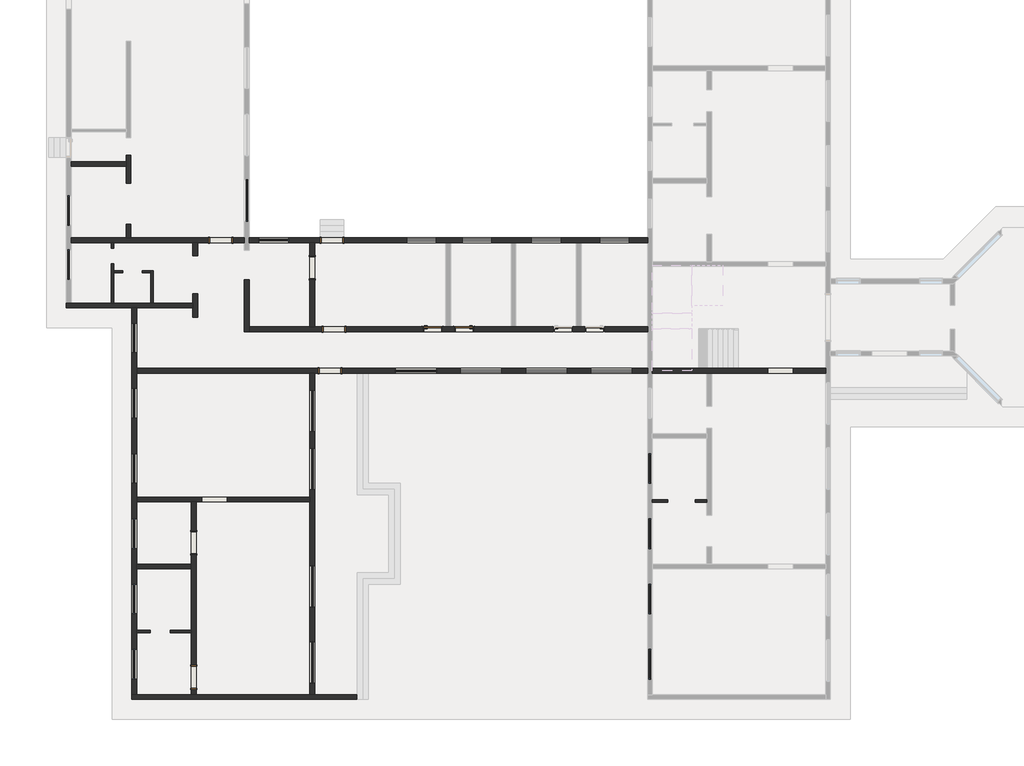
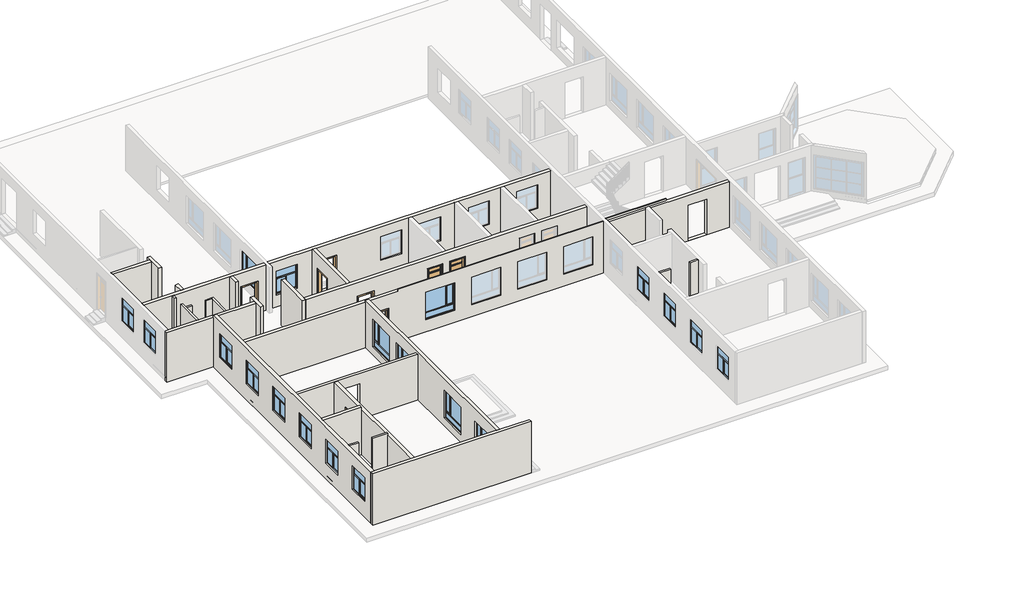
# One storey, part 1 of 5: 26 walls, 19 windows, 9 doors.
"""IFC4 building model written with IfcOpenShell, lengths in millimetres."""

from ifc_helpers import new_model, si_unit, frame, origin, origin_with_axes, place, context, project, spatial, polyline, outline, extrude, faceted_brep, transform, mapped, element, save
from components import door_b620a7e4, m1_645588ba, m1_8023598c, c1_07d47191, c2_05897f81

model = new_model("IFC4")

# Units and contexts
model_context = context("Model", 3, world=origin())
ifc_project = project(units=[si_unit("LENGTHUNIT", "METRE", prefix="MILLI")], contexts=[model_context])

# Site, building, storey
site = spatial("IfcSite", under=ifc_project)
building = spatial("IfcBuilding", under=site)
storey = spatial("IfcBuildingStorey", under=building, Name="一层", Elevation=0.0)

# Doors
placement = place(None, origin())
door_shape = door_b620a7e4(model_context)
element("IfcDoor", 1, ObjectType="门洞 : MD2(洞口）", at=placement, inside=storey, context=model_context, shape_type="MappedRepresentation", body=[
    mapped(door_shape, transform((-24575.2831392, -4613.7838385, 0.0), x_axis=(1.0, 0.0, 0.0), y_axis=(0.0, 1.0, 0.0), z_axis=(0.0, 0.0, 1.0))),
])
element("IfcDoor", 2, ObjectType="门洞 : MD2(洞口）", at=placement, inside=storey, context=model_context, shape_type="MappedRepresentation", body=[
    mapped(door_shape, transform((-19950.2831392, -6013.7838385, 0.0), x_axis=(0.0, 1.0, 0.0), y_axis=(-1.0, 0.0, 0.0), z_axis=(0.0, 0.0, 1.0))),
])
element("IfcDoor", 3, ObjectType="门洞 : MD2(洞口）", at=placement, inside=storey, context=model_context, shape_type="MappedRepresentation", body=[
    mapped(door_shape, transform((-19050.2831392, -11213.7838385, 0.0), x_axis=(1.0, 0.0, 0.0), y_axis=(0.0, 1.0, 0.0), z_axis=(0.0, 0.0, 1.0))),
])
element("IfcDoor", 4, ObjectType="门洞 : MD2(洞口）", at=placement, inside=storey, context=model_context, shape_type="MappedRepresentation", body=[
    mapped(door_shape, transform((-18850.2831392, -9113.7838385, 0.0), x_axis=(-1.0, 0.0, 0.0), y_axis=(0.0, -1.0, 0.0), z_axis=(0.0, 0.0, 1.0))),
])
element("IfcDoor", 5, ObjectType="门洞 : MD2(洞口）", at=placement, inside=storey, context=model_context, shape_type="MappedRepresentation", body=[
    mapped(door_shape, transform((-18950.2831392, -4613.7838385, 0.0), x_axis=(-1.0, 0.0, 0.0), y_axis=(0.0, -1.0, 0.0), z_axis=(0.0, 0.0, 1.0))),
])
element("IfcDoor", 6, ObjectType="门洞 : MD2(洞口）", at=placement, inside=storey, context=model_context, shape_type="MappedRepresentation", body=[
    mapped(door_shape, transform((-25950.2831392, -19913.7838385, 0.0), x_axis=(0.0, 1.0, 0.0), y_axis=(-1.0, 0.0, 0.0), z_axis=(0.0, 0.0, 1.0))),
])
element("IfcDoor", 7, ObjectType="门洞 : MD2(洞口）", at=placement, inside=storey, context=model_context, shape_type="MappedRepresentation", body=[
    mapped(door_shape, transform((-25950.2831392, -26713.7838385, 0.0), x_axis=(0.0, 1.0, 0.0), y_axis=(-1.0, 0.0, 0.0), z_axis=(0.0, 0.0, 1.0))),
])
m1_shape = m1_645588ba(model_context)
element("IfcDoor", 8, ObjectType="单嵌板木门 13 : M1", at=placement, inside=storey, context=model_context, shape_type="MappedRepresentation", body=[
    mapped(m1_shape, transform((-13870.2831392, -9113.7838385, 0.0), x_axis=(1.0, 0.0, 0.0), y_axis=(0.0, 1.0, 0.0), z_axis=(0.0, 0.0, 1.0))),
])
m1_2_shape = m1_8023598c(model_context)
element("IfcDoor", 9, ObjectType="单嵌板木门 13 : M1", at=placement, inside=storey, context=model_context, shape_type="MappedRepresentation", body=[
    mapped(m1_2_shape, transform((-12270.2831392, -9113.7838385, 0.0), x_axis=(-1.0, 0.0, 0.0), y_axis=(0.0, -1.0, 0.0), z_axis=(0.0, 0.0, 1.0))),
])

# Walls
element("IfcWall", 10, ObjectType="墙", at=placement, inside=storey, context=model_context, shape_type="Brep", body=[
    faceted_brep([(-29070.2831392, -27833.7838385, -300.0), (-17710.2831392, -27833.7838385, -300.0), (-17710.2831392, -27833.7838385, 3600.0), (-29070.2831392, -27833.7838385, 3600.0), (-29070.2831392, -27593.7838385, -300.0), (-29070.2831392, -27593.7838385, 3600.0), (-28830.2831392, -27593.7838385, 3600.0), (-20070.2831392, -27593.7838385, 3600.0), (-19830.2831392, -27593.7838385, 3600.0), (-17710.2831392, -27593.7838385, 3600.0), (-17710.2831392, -27593.7838385, 3450.0), (-17710.2831392, -27593.7838385, -300.0), (-19830.2831392, -27593.7838385, -300.0), (-20070.2831392, -27593.7838385, -300.0), (-25830.2831392, -27593.7838385, -300.0), (-26070.2831392, -27593.7838385, -300.0), (-28830.2831392, -27593.7838385, -300.0)], [[[0, 1, 2, 3]], [[4, 5, 6, 7, 8, 9, 10, 11, 12, 13, 14, 15, 16]], [[1, 0, 4, 16, 15, 14, 13, 12, 11]], [[3, 2, 9, 8, 7, 6, 5]], [[0, 3, 5, 4]], [[2, 1, 11, 10, 9]]]),
])
element("IfcWall", 11, ObjectType="墙", at=placement, inside=storey, context=model_context, shape_type="Brep", body=[
    faceted_brep([(-28830.2831392, -27593.7838385, -300.0), (-28830.2831392, -21233.7838385, -300.0), (-28830.2831392, -20993.7838385, -300.0), (-28830.2831392, -17850.7838385, -300.0), (-28830.2831392, -17610.7838385, -300.0), (-28830.2831392, -11333.7838385, -300.0), (-28830.2831392, -11093.7838385, -300.0), (-28830.2831392, -8033.7838385, -300.0), (-28830.2831392, -8033.7838385, 3600.0), (-28830.2831392, -20993.7838385, 3600.0), (-28830.2831392, -21233.7838385, 3600.0), (-28830.2831392, -24353.7838385, 3600.0), (-28830.2831392, -24473.7838385, 3600.0), (-28830.2831392, -27593.7838385, 3600.0), (-28830.2831392, -26813.7838385, 900.0), (-28830.2831392, -26813.7838385, 2700.0), (-28830.2831392, -25313.7838385, 2700.0), (-28830.2831392, -25313.7838385, 900.0), (-28830.2831392, -23513.7838385, 900.0), (-28830.2831392, -23513.7838385, 2700.0), (-28830.2831392, -22013.7838385, 2700.0), (-28830.2831392, -22013.7838385, 900.0), (-28830.2831392, -20213.7838385, 900.0), (-28830.2831392, -20213.7838385, 2700.0), (-28830.2831392, -18713.7838385, 2700.0), (-28830.2831392, -18713.7838385, 900.0), (-28830.2831392, -16913.7838385, 900.0), (-28830.2831392, -16913.7838385, 2700.0), (-28830.2831392, -15413.7838385, 2700.0), (-28830.2831392, -15413.7838385, 900.0), (-28830.2831392, -13613.7838385, 900.0), (-28830.2831392, -13613.7838385, 2700.0), (-28830.2831392, -12113.7838385, 2700.0), (-28830.2831392, -12113.7838385, 900.0), (-28830.2831392, -10313.7838385, 900.0), (-28830.2831392, -10313.7838385, 2700.0), (-28830.2831392, -8813.7838385, 2700.0), (-28830.2831392, -8813.7838385, 900.0), (-29070.2831392, -27593.7838385, -300.0), (-29070.2831392, -27593.7838385, 3600.0), (-29070.2831392, -8033.7838385, 3600.0), (-29070.2831392, -8033.7838385, -300.0), (-29070.2831392, -26813.7838385, 900.0), (-29070.2831392, -25313.7838385, 900.0), (-29070.2831392, -25313.7838385, 2700.0), (-29070.2831392, -26813.7838385, 2700.0), (-29070.2831392, -23513.7838385, 900.0), (-29070.2831392, -22013.7838385, 900.0), (-29070.2831392, -22013.7838385, 2700.0), (-29070.2831392, -23513.7838385, 2700.0), (-29070.2831392, -20213.7838385, 900.0), (-29070.2831392, -18713.7838385, 900.0), (-29070.2831392, -18713.7838385, 2700.0), (-29070.2831392, -20213.7838385, 2700.0), (-29070.2831392, -16913.7838385, 900.0), (-29070.2831392, -15413.7838385, 900.0), (-29070.2831392, -15413.7838385, 2700.0), (-29070.2831392, -16913.7838385, 2700.0), (-29070.2831392, -13613.7838385, 900.0), (-29070.2831392, -12113.7838385, 900.0), (-29070.2831392, -12113.7838385, 2700.0), (-29070.2831392, -13613.7838385, 2700.0), (-29070.2831392, -10313.7838385, 900.0), (-29070.2831392, -8813.7838385, 900.0), (-29070.2831392, -8813.7838385, 2700.0), (-29070.2831392, -10313.7838385, 2700.0)], [[[0, 1, 2, 3, 4, 5, 6, 7, 8, 9, 10, 11, 12, 13], [14, 15, 16, 17], [18, 19, 20, 21], [22, 23, 24, 25], [26, 27, 28, 29], [30, 31, 32, 33], [34, 35, 36, 37]], [[38, 39, 40, 41], [42, 43, 44, 45], [46, 47, 48, 49], [50, 51, 52, 53], [54, 55, 56, 57], [58, 59, 60, 61], [62, 63, 64, 65]], [[7, 6, 5, 4, 3, 2, 1, 0, 38, 41]], [[13, 12, 11, 10, 9, 8, 40, 39]], [[0, 13, 39, 38]], [[8, 7, 41, 40]], [[15, 14, 42, 45]], [[16, 15, 45, 44]], [[17, 16, 44, 43]], [[14, 17, 43, 42]], [[19, 18, 46, 49]], [[20, 19, 49, 48]], [[21, 20, 48, 47]], [[18, 21, 47, 46]], [[23, 22, 50, 53]], [[24, 23, 53, 52]], [[25, 24, 52, 51]], [[22, 25, 51, 50]], [[27, 26, 54, 57]], [[28, 27, 57, 56]], [[29, 28, 56, 55]], [[26, 29, 55, 54]], [[31, 30, 58, 61]], [[32, 31, 61, 60]], [[33, 32, 60, 59]], [[30, 33, 59, 58]], [[35, 34, 62, 65]], [[36, 35, 65, 64]], [[37, 36, 64, 63]], [[34, 37, 63, 62]]]),
])
element("IfcWall", 12, ObjectType="墙", at=placement, inside=storey, context=model_context, shape_type="Brep", body=[
    faceted_brep([(-32390.2831392, -8033.7838385, -300.0), (-29070.2831392, -8033.7838385, -300.0), (-28830.2831392, -8033.7838385, -300.0), (-25995.2831392, -8033.7838385, -300.0), (-25995.2831392, -8033.7838385, 3450.0), (-32390.2831392, -8033.7838385, 3450.0), (-25995.2831392, -7793.7838385, -300.0), (-32150.2831392, -7793.7838385, -300.0), (-32390.2831392, -7793.7838385, -300.0), (-32390.2831392, -7793.7838385, 3450.0), (-32150.2831392, -7793.7838385, 3450.0), (-30105.2831392, -7793.7838385, 3450.0), (-29985.2831392, -7793.7838385, 3450.0), (-28110.2831392, -7793.7838385, 3450.0), (-27990.2831392, -7793.7838385, 3450.0), (-25995.2831392, -7793.7838385, 3450.0)], [[[0, 1, 2, 3, 4, 5]], [[6, 7, 8, 9, 10, 11, 12, 13, 14, 15]], [[3, 2, 1, 0, 8, 7, 6]], [[8, 0, 5, 9]], [[3, 6, 15, 4]], [[5, 4, 15, 14, 13, 12, 11, 10, 9]]]),
])
element("IfcWall", 13, ObjectType="墙", at=placement, inside=storey, context=model_context, shape_type="Brep", body=[
    faceted_brep([(6009.7168608, -11093.7838385, -300.0), (-2750.2831392, -11093.7838385, -300.0), (-2750.2831392, -11093.7838385, 3450.0), (-2750.2831392, -11093.7838385, 3600.0), (1589.7168608, -11093.7838385, 3600.0), (1589.7168608, -11093.7838385, 3450.0), (6009.7168608, -11093.7838385, 3450.0), (3079.7168608, -11093.7838385, 2700.0), (3079.7168608, -11093.7838385, 0.0), (4379.7168608, -11093.7838385, 0.0), (4379.7168608, -11093.7838385, 2700.0), (-2750.2831392, -11333.7838385, -300.0), (9.7168608, -11333.7838385, -300.0), (249.7168608, -11333.7838385, -300.0), (6009.7168608, -11333.7838385, -300.0), (6009.7168608, -11333.7838385, 3450.0), (-2750.2831392, -11333.7838385, 3450.0), (3079.7168608, -11333.7838385, 0.0), (3079.7168608, -11333.7838385, 2700.0), (4379.7168608, -11333.7838385, 2700.0), (4379.7168608, -11333.7838385, 0.0), (-2750.2831392, -11153.7838385, 3600.0), (1589.7168608, -11153.7838385, 3600.0), (-2750.2831392, -11153.7838385, 3450.0), (1589.7168608, -11153.7838385, 3450.0)], [[[0, 1, 2, 3, 4, 5, 6], [7, 8, 9, 10]], [[11, 12, 13, 14, 15, 16], [17, 18, 19, 20]], [[0, 14, 13, 12, 11, 1]], [[4, 3, 21, 22]], [[14, 0, 6, 15]], [[1, 11, 16, 23, 21, 3, 2]], [[18, 17, 8, 7]], [[19, 18, 7, 10]], [[20, 19, 10, 9]], [[17, 20, 9, 8]], [[24, 23, 16, 15, 6, 5]], [[22, 24, 5, 4]], [[23, 24, 22, 21]]]),
    faceted_brep([(-2990.2831392, -11093.7838385, -300.0), (-28830.2831392, -11093.7838385, -300.0), (-28830.2831392, -11093.7838385, 3450.0), (-2990.2831392, -11093.7838385, 3450.0), (-3760.2831392, -11093.7838385, 600.0), (-3760.2831392, -11093.7838385, 2700.0), (-5860.2831392, -11093.7838385, 2700.0), (-5860.2831392, -11093.7838385, 600.0), (-7060.2831392, -11093.7838385, 600.0), (-7060.2831392, -11093.7838385, 2700.0), (-9160.2831392, -11093.7838385, 2700.0), (-9160.2831392, -11093.7838385, 600.0), (-10360.2831392, -11093.7838385, 600.0), (-10360.2831392, -11093.7838385, 2700.0), (-12460.2831392, -11093.7838385, 2700.0), (-12460.2831392, -11093.7838385, 600.0), (-13660.2831392, -11093.7838385, 600.0), (-13660.2831392, -11093.7838385, 2700.0), (-15760.2831392, -11093.7838385, 2700.0), (-15760.2831392, -11093.7838385, 600.0), (-18450.2831392, -11093.7838385, 0.0), (-18450.2831392, -11093.7838385, 2400.0), (-19650.2831392, -11093.7838385, 2400.0), (-19650.2831392, -11093.7838385, 0.0), (-28830.2831392, -11333.7838385, -300.0), (-20070.2831392, -11333.7838385, -300.0), (-19830.2831392, -11333.7838385, -300.0), (-2990.2831392, -11333.7838385, -300.0), (-2990.2831392, -11333.7838385, 3600.0), (-17710.2831392, -11333.7838385, 3600.0), (-17710.2831392, -11333.7838385, 3450.0), (-28830.2831392, -11333.7838385, 3450.0), (-3760.2831392, -11333.7838385, 2700.0), (-3760.2831392, -11333.7838385, 600.0), (-5860.2831392, -11333.7838385, 600.0), (-5860.2831392, -11333.7838385, 2700.0), (-7060.2831392, -11333.7838385, 2700.0), (-7060.2831392, -11333.7838385, 600.0), (-9160.2831392, -11333.7838385, 600.0), (-9160.2831392, -11333.7838385, 2700.0), (-10360.2831392, -11333.7838385, 2700.0), (-10360.2831392, -11333.7838385, 600.0), (-12460.2831392, -11333.7838385, 600.0), (-12460.2831392, -11333.7838385, 2700.0), (-13660.2831392, -11333.7838385, 2700.0), (-13660.2831392, -11333.7838385, 600.0), (-15760.2831392, -11333.7838385, 600.0), (-15760.2831392, -11333.7838385, 2700.0), (-18450.2831392, -11333.7838385, 2400.0), (-18450.2831392, -11333.7838385, 0.0), (-19650.2831392, -11333.7838385, 0.0), (-19650.2831392, -11333.7838385, 2400.0), (-2990.2831392, -11273.7838385, 3600.0), (-17710.2831392, -11273.7838385, 3600.0), (-2990.2831392, -11273.7838385, 3450.0), (-17710.2831392, -11273.7838385, 3450.0)], [[[0, 1, 2, 3], [4, 5, 6, 7], [8, 9, 10, 11], [12, 13, 14, 15], [16, 17, 18, 19], [20, 21, 22, 23]], [[24, 25, 26, 27, 28, 29, 30, 31], [32, 33, 34, 35], [36, 37, 38, 39], [40, 41, 42, 43], [44, 45, 46, 47], [48, 49, 50, 51]], [[1, 0, 27, 26, 25, 24]], [[29, 28, 52, 53]], [[28, 27, 0, 3, 54, 52]], [[1, 24, 31, 2]], [[5, 4, 33, 32]], [[6, 5, 32, 35]], [[7, 6, 35, 34]], [[4, 7, 34, 33]], [[9, 8, 37, 36]], [[10, 9, 36, 39]], [[11, 10, 39, 38]], [[8, 11, 38, 37]], [[13, 12, 41, 40]], [[14, 13, 40, 43]], [[15, 14, 43, 42]], [[12, 15, 42, 41]], [[17, 16, 45, 44]], [[18, 17, 44, 47]], [[19, 18, 47, 46]], [[16, 19, 46, 45]], [[21, 20, 49, 48]], [[22, 21, 48, 51]], [[23, 22, 51, 50]], [[20, 23, 50, 49]], [[30, 55, 54, 3, 2, 31]], [[55, 53, 52, 54]], [[53, 55, 30, 29]]]),
])
element("IfcWall", 14, ObjectType="墙", at=placement, inside=storey, context=model_context, shape_type="Brep", body=[
    faceted_brep([(-20070.2831392, -11333.7838385, -300.0), (-20070.2831392, -17610.7838385, -300.0), (-20070.2831392, -17850.7838385, -300.0), (-20070.2831392, -27593.7838385, -300.0), (-20070.2831392, -27593.7838385, 3600.0), (-20070.2831392, -11333.7838385, 3600.0), (-20070.2831392, -12213.7838385, 600.0), (-20070.2831392, -12213.7838385, 2700.0), (-20070.2831392, -14313.7838385, 2700.0), (-20070.2831392, -14313.7838385, 600.0), (-20070.2831392, -15130.7838385, 600.0), (-20070.2831392, -15130.7838385, 2700.0), (-20070.2831392, -17230.7838385, 2700.0), (-20070.2831392, -17230.7838385, 600.0), (-20070.2831392, -24930.7838385, 600.0), (-20070.2831392, -24930.7838385, 2700.0), (-20070.2831392, -27030.7838385, 2700.0), (-20070.2831392, -27030.7838385, 600.0), (-20070.2831392, -21090.6118593, 600.0), (-20070.2831392, -21090.6118593, 2700.0), (-20070.2831392, -23190.6118593, 2700.0), (-20070.2831392, -23190.6118593, 600.0), (-19830.2831392, -11333.7838385, -300.0), (-19830.2831392, -11333.7838385, 3600.0), (-19830.2831392, -27593.7838385, 3600.0), (-19830.2831392, -27593.7838385, -300.0), (-19830.2831392, -12213.7838385, 600.0), (-19830.2831392, -14313.7838385, 600.0), (-19830.2831392, -14313.7838385, 2700.0), (-19830.2831392, -12213.7838385, 2700.0), (-19830.2831392, -15130.7838385, 600.0), (-19830.2831392, -17230.7838385, 600.0), (-19830.2831392, -17230.7838385, 2700.0), (-19830.2831392, -15130.7838385, 2700.0), (-19830.2831392, -24930.7838385, 600.0), (-19830.2831392, -27030.7838385, 600.0), (-19830.2831392, -27030.7838385, 2700.0), (-19830.2831392, -24930.7838385, 2700.0), (-19830.2831392, -21090.6118593, 600.0), (-19830.2831392, -23190.6118593, 600.0), (-19830.2831392, -23190.6118593, 2700.0), (-19830.2831392, -21090.6118593, 2700.0)], [[[0, 1, 2, 3, 4, 5], [6, 7, 8, 9], [10, 11, 12, 13], [14, 15, 16, 17], [18, 19, 20, 21]], [[22, 23, 24, 25], [26, 27, 28, 29], [30, 31, 32, 33], [34, 35, 36, 37], [38, 39, 40, 41]], [[3, 2, 1, 0, 22, 25]], [[5, 4, 24, 23]], [[4, 3, 25, 24]], [[0, 5, 23, 22]], [[7, 6, 26, 29]], [[8, 7, 29, 28]], [[9, 8, 28, 27]], [[6, 9, 27, 26]], [[11, 10, 30, 33]], [[12, 11, 33, 32]], [[13, 12, 32, 31]], [[10, 13, 31, 30]], [[15, 14, 34, 37]], [[16, 15, 37, 36]], [[17, 16, 36, 35]], [[14, 17, 35, 34]], [[19, 18, 38, 41]], [[20, 19, 41, 40]], [[21, 20, 40, 39]], [[18, 21, 39, 38]]]),
])
element("IfcWall", 15, ObjectType="墙", at=placement, inside=storey, context=model_context, shape_type="Brep", body=[
    faceted_brep([(-23140.2831392, -9233.7838385, -300.0), (-23140.2831392, -8993.7838385, -300.0), (-23140.2831392, -6613.7838385, -300.0), (-23140.2831392, -6613.7838385, 3450.0), (-23140.2831392, -8993.7838385, 3450.0), (-23140.2831392, -9233.7838385, 3450.0), (-23380.2831392, -6613.7838385, -300.0), (-23380.2831392, -9233.7838385, -300.0), (-23380.2831392, -9233.7838385, 3450.0), (-23380.2831392, -6613.7838385, 3450.0)], [[[0, 1, 2, 3, 4, 5]], [[6, 7, 8, 9]], [[2, 1, 0, 7, 6]], [[2, 6, 9, 3]], [[7, 0, 5, 8]], [[5, 4, 3, 9, 8]]]),
])
element("IfcWall", 16, ObjectType="墙", at=placement, inside=storey, context=model_context, shape_type="Brep", body=[
    faceted_brep([(-23140.2831392, -4733.7838385, -300.0), (-20070.2831392, -4733.7838385, -300.0), (-19830.2831392, -4733.7838385, -300.0), (-13190.2831392, -4733.7838385, -300.0), (-12950.2831392, -4733.7838385, -300.0), (-9890.2831392, -4733.7838385, -300.0), (-9650.2831392, -4733.7838385, -300.0), (-6590.2831392, -4733.7838385, -300.0), (-6350.2831392, -4733.7838385, -300.0), (-2990.2831392, -4733.7838385, -300.0), (-2990.2831392, -4733.7838385, 3450.0), (-23140.2831392, -4733.7838385, 3450.0), (-5420.2831392, -4733.7838385, 900.0), (-5420.2831392, -4733.7838385, 2700.0), (-3920.2831392, -4733.7838385, 2700.0), (-3920.2831392, -4733.7838385, 900.0), (-8870.2831392, -4733.7838385, 900.0), (-8870.2831392, -4733.7838385, 2700.0), (-7370.2831392, -4733.7838385, 2700.0), (-7370.2831392, -4733.7838385, 900.0), (-12370.2831392, -4733.7838385, 900.0), (-12370.2831392, -4733.7838385, 2700.0), (-10870.2831392, -4733.7838385, 2700.0), (-10870.2831392, -4733.7838385, 900.0), (-15170.2831392, -4733.7838385, 900.0), (-15170.2831392, -4733.7838385, 2700.0), (-13670.2831392, -4733.7838385, 2700.0), (-13670.2831392, -4733.7838385, 900.0), (-22650.2831392, -4733.7838385, 900.0), (-22650.2831392, -4733.7838385, 2700.0), (-21150.2831392, -4733.7838385, 2700.0), (-21150.2831392, -4733.7838385, 900.0), (-19550.2831392, -4733.7838385, 0.0), (-19550.2831392, -4733.7838385, 2400.0), (-18350.2831392, -4733.7838385, 2400.0), (-18350.2831392, -4733.7838385, 0.0), (-2990.2831392, -4493.7838385, -300.0), (-23140.2831392, -4493.7838385, -300.0), (-23140.2831392, -4493.7838385, 3450.0), (-2990.2831392, -4493.7838385, 3450.0), (-5420.2831392, -4493.7838385, 2700.0), (-5420.2831392, -4493.7838385, 900.0), (-3920.2831392, -4493.7838385, 900.0), (-3920.2831392, -4493.7838385, 2700.0), (-8870.2831392, -4493.7838385, 2700.0), (-8870.2831392, -4493.7838385, 900.0), (-7370.2831392, -4493.7838385, 900.0), (-7370.2831392, -4493.7838385, 2700.0), (-12370.2831392, -4493.7838385, 2700.0), (-12370.2831392, -4493.7838385, 900.0), (-10870.2831392, -4493.7838385, 900.0), (-10870.2831392, -4493.7838385, 2700.0), (-15170.2831392, -4493.7838385, 2700.0), (-15170.2831392, -4493.7838385, 900.0), (-13670.2831392, -4493.7838385, 900.0), (-13670.2831392, -4493.7838385, 2700.0), (-22650.2831392, -4493.7838385, 2700.0), (-22650.2831392, -4493.7838385, 900.0), (-21150.2831392, -4493.7838385, 900.0), (-21150.2831392, -4493.7838385, 2700.0), (-19550.2831392, -4493.7838385, 2400.0), (-19550.2831392, -4493.7838385, 0.0), (-18350.2831392, -4493.7838385, 0.0), (-18350.2831392, -4493.7838385, 2400.0)], [[[0, 1, 2, 3, 4, 5, 6, 7, 8, 9, 10, 11], [12, 13, 14, 15], [16, 17, 18, 19], [20, 21, 22, 23], [24, 25, 26, 27], [28, 29, 30, 31], [32, 33, 34, 35]], [[36, 37, 38, 39], [40, 41, 42, 43], [44, 45, 46, 47], [48, 49, 50, 51], [52, 53, 54, 55], [56, 57, 58, 59], [60, 61, 62, 63]], [[36, 9, 8, 7, 6, 5, 4, 3, 2, 1, 0, 37]], [[9, 36, 39, 10]], [[13, 12, 41, 40]], [[14, 13, 40, 43]], [[15, 14, 43, 42]], [[12, 15, 42, 41]], [[17, 16, 45, 44]], [[18, 17, 44, 47]], [[19, 18, 47, 46]], [[16, 19, 46, 45]], [[21, 20, 49, 48]], [[22, 21, 48, 51]], [[23, 22, 51, 50]], [[20, 23, 50, 49]], [[25, 24, 53, 52]], [[26, 25, 52, 55]], [[27, 26, 55, 54]], [[24, 27, 54, 53]], [[29, 28, 57, 56]], [[30, 29, 56, 59]], [[31, 30, 59, 58]], [[28, 31, 58, 57]], [[33, 32, 61, 60]], [[34, 33, 60, 63]], [[35, 34, 63, 62]], [[32, 35, 62, 61]], [[37, 0, 11, 38]], [[11, 10, 39, 38]]]),
    faceted_brep([(-32150.2831392, -4733.7838385, -300.0), (-25995.2831392, -4733.7838385, -300.0), (-25755.2831392, -4733.7838385, -300.0), (-23380.2831392, -4733.7838385, -300.0), (-23380.2831392, -4733.7838385, 3450.0), (-32150.2831392, -4733.7838385, 3450.0), (-23975.2831392, -4733.7838385, 2400.0), (-23975.2831392, -4733.7838385, 0.0), (-25175.2831392, -4733.7838385, 0.0), (-25175.2831392, -4733.7838385, 2400.0), (-23380.2831392, -4493.7838385, -300.0), (-29125.2831392, -4493.7838385, -300.0), (-29365.2831392, -4493.7838385, -300.0), (-32150.2831392, -4493.7838385, -300.0), (-32150.2831392, -4493.7838385, 3450.0), (-29365.2831392, -4493.7838385, 3450.0), (-29125.2831392, -4493.7838385, 3450.0), (-23380.2831392, -4493.7838385, 3450.0), (-23975.2831392, -4493.7838385, 0.0), (-23975.2831392, -4493.7838385, 2400.0), (-25175.2831392, -4493.7838385, 2400.0), (-25175.2831392, -4493.7838385, 0.0)], [[[0, 1, 2, 3, 4, 5], [6, 7, 8, 9]], [[10, 11, 12, 13, 14, 15, 16, 17], [18, 19, 20, 21]], [[0, 13, 12, 11, 10, 3, 2, 1]], [[13, 0, 5, 14]], [[19, 18, 7, 6]], [[20, 19, 6, 9]], [[21, 20, 9, 8]], [[18, 21, 8, 7]], [[3, 10, 17, 4]], [[5, 4, 17, 16, 15, 14]]]),
])
element("IfcWall", 17, ObjectType="墙", at=placement, inside=storey, context=model_context, shape_type="SweptSolid", body=[
    extrude(outline(polyline([(-29125.2831392, -3813.7838385), (-29125.2831392, -4493.7838385), (-29365.2831392, -4493.7838385), (-29365.2831392, -3813.7838385), (-29125.2831392, -3813.7838385)])), frame((0.0, 0.0, -300.0), z_axis=(0.0, 0.0, 1.0), x_axis=(1.0, 0.0, 0.0)), (0.0, 0.0, 1.0), 3750.0),
])
element("IfcWall", 18, ObjectType="墙", at=placement, inside=storey, context=model_context, shape_type="SweptSolid", body=[
    extrude(outline(polyline([(-29365.2831392, -878.7838385), (-32150.2831392, -878.7838385), (-32150.2831392, -638.7838385), (-29365.2831392, -638.7838385), (-29365.2831392, -878.7838385)])), frame((0.0, 0.0, -300.0), z_axis=(0.0, 0.0, 1.0), x_axis=(1.0, 0.0, 0.0)), (0.0, 0.0, 1.0), 3750.0),
])
element("IfcWall", 19, ObjectType="墙", at=placement, inside=storey, context=model_context, shape_type="Brep", body=[
    faceted_brep([(-23140.2831392, -9233.7838385, -300.0), (-2990.2831392, -9233.7838385, -300.0), (-2990.2831392, -9233.7838385, 3450.0), (-23140.2831392, -9233.7838385, 3450.0), (-6170.2831392, -9233.7838385, 0.0), (-6170.2831392, -9233.7838385, 2700.0), (-5170.2831392, -9233.7838385, 2700.0), (-5170.2831392, -9233.7838385, 0.0), (-6770.2831392, -9233.7838385, 2700.0), (-6770.2831392, -9233.7838385, 0.0), (-7770.2831392, -9233.7838385, 0.0), (-7770.2831392, -9233.7838385, 2700.0), (-13370.2831392, -9233.7838385, 2700.0), (-13370.2831392, -9233.7838385, 0.0), (-14370.2831392, -9233.7838385, 0.0), (-14370.2831392, -9233.7838385, 2700.0), (-12770.2831392, -9233.7838385, 0.0), (-12770.2831392, -9233.7838385, 2700.0), (-11770.2831392, -9233.7838385, 2700.0), (-11770.2831392, -9233.7838385, 0.0), (-19450.2831392, -9233.7838385, 0.0), (-19450.2831392, -9233.7838385, 2400.0), (-18250.2831392, -9233.7838385, 2400.0), (-18250.2831392, -9233.7838385, 0.0), (-2990.2831392, -8993.7838385, -300.0), (-6350.2831392, -8993.7838385, -300.0), (-6590.2831392, -8993.7838385, -300.0), (-9650.2831392, -8993.7838385, -300.0), (-9890.2831392, -8993.7838385, -300.0), (-12950.2831392, -8993.7838385, -300.0), (-13190.2831392, -8993.7838385, -300.0), (-19830.2831392, -8993.7838385, -300.0), (-20070.2831392, -8993.7838385, -300.0), (-23140.2831392, -8993.7838385, -300.0), (-23140.2831392, -8993.7838385, 3450.0), (-13190.2831392, -8993.7838385, 3450.0), (-12950.2831392, -8993.7838385, 3450.0), (-9890.2831392, -8993.7838385, 3450.0), (-9650.2831392, -8993.7838385, 3450.0), (-6590.2831392, -8993.7838385, 3450.0), (-6350.2831392, -8993.7838385, 3450.0), (-2990.2831392, -8993.7838385, 3450.0), (-6170.2831392, -8993.7838385, 2700.0), (-6170.2831392, -8993.7838385, 0.0), (-5170.2831392, -8993.7838385, 0.0), (-5170.2831392, -8993.7838385, 2700.0), (-6770.2831392, -8993.7838385, 0.0), (-6770.2831392, -8993.7838385, 2700.0), (-7770.2831392, -8993.7838385, 2700.0), (-7770.2831392, -8993.7838385, 0.0), (-13370.2831392, -8993.7838385, 0.0), (-13370.2831392, -8993.7838385, 2700.0), (-14370.2831392, -8993.7838385, 2700.0), (-14370.2831392, -8993.7838385, 0.0), (-12770.2831392, -8993.7838385, 2700.0), (-12770.2831392, -8993.7838385, 0.0), (-11770.2831392, -8993.7838385, 0.0), (-11770.2831392, -8993.7838385, 2700.0), (-19450.2831392, -8993.7838385, 2400.0), (-19450.2831392, -8993.7838385, 0.0), (-18250.2831392, -8993.7838385, 0.0), (-18250.2831392, -8993.7838385, 2400.0)], [[[0, 1, 2, 3], [4, 5, 6, 7], [8, 9, 10, 11], [12, 13, 14, 15], [16, 17, 18, 19], [20, 21, 22, 23]], [[24, 25, 26, 27, 28, 29, 30, 31, 32, 33, 34, 35, 36, 37, 38, 39, 40, 41], [42, 43, 44, 45], [46, 47, 48, 49], [50, 51, 52, 53], [54, 55, 56, 57], [58, 59, 60, 61]], [[1, 0, 33, 32, 31, 30, 29, 28, 27, 26, 25, 24]], [[33, 0, 3, 34]], [[1, 24, 41, 2]], [[5, 4, 43, 42]], [[6, 5, 42, 45]], [[7, 6, 45, 44]], [[4, 7, 44, 43]], [[47, 46, 9, 8]], [[48, 47, 8, 11]], [[49, 48, 11, 10]], [[46, 49, 10, 9]], [[51, 50, 13, 12]], [[52, 51, 12, 15]], [[53, 52, 15, 14]], [[50, 53, 14, 13]], [[17, 16, 55, 54]], [[18, 17, 54, 57]], [[19, 18, 57, 56]], [[16, 19, 56, 55]], [[21, 20, 59, 58]], [[22, 21, 58, 61]], [[23, 22, 61, 60]], [[20, 23, 60, 59]], [[3, 2, 41, 40, 39, 38, 37, 36, 35, 34]]]),
])
element("IfcWall", 20, ObjectType="墙", at=placement, inside=storey, context=model_context, shape_type="SweptSolid", body=[
    extrude(outline(polyline([(-4733.7838385, -300.0), (-8993.7838385, -300.0), (-8993.7838385, 3450.0), (-4733.7838385, 3450.0), (-4733.7838385, -300.0)]), holes=[polyline([(-5413.7838385, 0.0), (-5413.7838385, 2400.0), (-6613.7838385, 2400.0), (-6613.7838385, 0.0), (-5413.7838385, 0.0)])]), frame((-20070.2831392, 0.0, 0.0), z_axis=(1.0, 0.0, 0.0), x_axis=(0.0, 1.0, 0.0)), (0.0, 0.0, 1.0), 240.0),
])
element("IfcWall", 21, ObjectType="墙", at=placement, inside=storey, context=model_context, shape_type="SweptSolid", body=[
    extrude(outline(polyline([(-25995.2831392, -5413.7838385), (-25995.2831392, -4733.7838385), (-25755.2831392, -4733.7838385), (-25755.2831392, -5413.7838385), (-25995.2831392, -5413.7838385)])), frame((0.0, 0.0, -300.0), z_axis=(0.0, 0.0, 1.0), x_axis=(1.0, 0.0, 0.0)), (0.0, 0.0, 1.0), 3750.0),
])
element("IfcWall", 22, ObjectType="隔墙", at=placement, inside=storey, context=model_context, shape_type="SweptSolid", body=[
    extrude(outline(polyline([(-30105.2831392, -5013.7838385), (-30105.2831392, -4733.7838385), (-29985.2831392, -4733.7838385), (-29985.2831392, -5013.7838385), (-30105.2831392, -5013.7838385)])), origin_with_axes(), (0.0, 0.0, 1.0), 3450.0),
])
element("IfcWall", 23, ObjectType="隔墙", at=placement, inside=storey, context=model_context, shape_type="Brep", body=[
    faceted_brep([(-27990.2831392, -7793.7838385, 0.0), (-27990.2831392, -6153.7838385, 0.0), (-27990.2831392, -6153.7838385, 3450.0), (-27990.2831392, -7793.7838385, 3450.0), (-28110.2831392, -6153.7838385, 0.0), (-28110.2831392, -6273.7838385, 0.0), (-28110.2831392, -7793.7838385, 0.0), (-28110.2831392, -7793.7838385, 3450.0), (-28110.2831392, -6273.7838385, 3450.0), (-28110.2831392, -6153.7838385, 3450.0)], [[[0, 1, 2, 3]], [[4, 5, 6, 7, 8, 9]], [[1, 0, 6, 5, 4]], [[6, 0, 3, 7]], [[1, 4, 9, 2]], [[3, 2, 9, 8, 7]]]),
])
element("IfcWall", 24, ObjectType="隔墙", at=placement, inside=storey, context=model_context, shape_type="SweptSolid", body=[
    extrude(outline(polyline([(-28550.2831392, -6153.7838385), (-28110.2831392, -6153.7838385), (-28110.2831392, -6273.7838385), (-28550.2831392, -6273.7838385), (-28550.2831392, -6153.7838385)])), origin_with_axes(), (0.0, 0.0, 1.0), 3450.0),
])
element("IfcWall", 25, ObjectType="墙", at=placement, inside=storey, context=model_context, shape_type="Brep", body=[
    faceted_brep([(-28830.2831392, -17850.7838385, -300.0), (-26070.2831392, -17850.7838385, -300.0), (-25830.2831392, -17850.7838385, -300.0), (-20070.2831392, -17850.7838385, -300.0), (-20070.2831392, -17850.7838385, 3450.0), (-28830.2831392, -17850.7838385, 3450.0), (-24250.2831392, -17850.7838385, 2700.0), (-24250.2831392, -17850.7838385, 0.0), (-25550.2831392, -17850.7838385, 0.0), (-25550.2831392, -17850.7838385, 2700.0), (-20070.2831392, -17610.7838385, -300.0), (-28830.2831392, -17610.7838385, -300.0), (-28830.2831392, -17610.7838385, 3450.0), (-20070.2831392, -17610.7838385, 3450.0), (-24250.2831392, -17610.7838385, 0.0), (-24250.2831392, -17610.7838385, 2700.0), (-25550.2831392, -17610.7838385, 2700.0), (-25550.2831392, -17610.7838385, 0.0)], [[[0, 1, 2, 3, 4, 5], [6, 7, 8, 9]], [[10, 11, 12, 13], [14, 15, 16, 17]], [[3, 2, 1, 0, 11, 10]], [[11, 0, 5, 12]], [[3, 10, 13, 4]], [[15, 14, 7, 6]], [[16, 15, 6, 9]], [[17, 16, 9, 8]], [[14, 17, 8, 7]], [[5, 4, 13, 12]]]),
])
element("IfcWall", 26, ObjectType="墙", at=placement, inside=storey, context=model_context, shape_type="Brep", body=[
    faceted_brep([(-26070.2831392, -17850.7838385, -300.0), (-26070.2831392, -20993.7838385, -300.0), (-26070.2831392, -21233.7838385, -300.0), (-26070.2831392, -27593.7838385, -300.0), (-26070.2831392, -27593.7838385, 3450.0), (-26070.2831392, -17850.7838385, 3450.0), (-26070.2831392, -19313.7838385, 0.0), (-26070.2831392, -19313.7838385, 2400.0), (-26070.2831392, -20513.7838385, 2400.0), (-26070.2831392, -20513.7838385, 0.0), (-26070.2831392, -26113.7838385, 0.0), (-26070.2831392, -26113.7838385, 2400.0), (-26070.2831392, -27313.7838385, 2400.0), (-26070.2831392, -27313.7838385, 0.0), (-25830.2831392, -27593.7838385, -300.0), (-25830.2831392, -17850.7838385, -300.0), (-25830.2831392, -17850.7838385, 3450.0), (-25830.2831392, -27593.7838385, 3450.0), (-25830.2831392, -19313.7838385, 2400.0), (-25830.2831392, -19313.7838385, 0.0), (-25830.2831392, -20513.7838385, 0.0), (-25830.2831392, -20513.7838385, 2400.0), (-25830.2831392, -26113.7838385, 2400.0), (-25830.2831392, -26113.7838385, 0.0), (-25830.2831392, -27313.7838385, 0.0), (-25830.2831392, -27313.7838385, 2400.0)], [[[0, 1, 2, 3, 4, 5], [6, 7, 8, 9], [10, 11, 12, 13]], [[14, 15, 16, 17], [18, 19, 20, 21], [22, 23, 24, 25]], [[3, 2, 1, 0, 15, 14]], [[3, 14, 17, 4]], [[15, 0, 5, 16]], [[7, 6, 19, 18]], [[8, 7, 18, 21]], [[9, 8, 21, 20]], [[6, 9, 20, 19]], [[11, 10, 23, 22]], [[12, 11, 22, 25]], [[13, 12, 25, 24]], [[10, 13, 24, 23]], [[5, 4, 17, 16]]]),
])
element("IfcWall", 27, ObjectType="墙", at=placement, inside=storey, context=model_context, shape_type="SweptSolid", body=[
    extrude(outline(polyline([(-26070.2831392, -21233.7838385), (-28830.2831392, -21233.7838385), (-28830.2831392, -20993.7838385), (-26070.2831392, -20993.7838385), (-26070.2831392, -21233.7838385)])), frame((0.0, 0.0, -300.0), z_axis=(0.0, 0.0, 1.0), x_axis=(1.0, 0.0, 0.0)), (0.0, 0.0, 1.0), 3900.0),
])
element("IfcWall", 28, ObjectType="隔墙", at=placement, inside=storey, context=model_context, shape_type="SweptSolid", body=[
    extrude(outline(polyline([(-28150.2831392, -24473.7838385), (-28830.2831392, -24473.7838385), (-28830.2831392, -24353.7838385), (-28150.2831392, -24353.7838385), (-28150.2831392, -24473.7838385)])), origin_with_axes(), (0.0, 0.0, 1.0), 3600.0),
])
element("IfcWall", 29, ObjectType="隔墙", at=placement, inside=storey, context=model_context, shape_type="SweptSolid", body=[
    extrude(outline(polyline([(-1970.2831392, -17873.7838385), (-2750.2831392, -17873.7838385), (-2750.2831392, -17753.7838385), (-1970.2831392, -17753.7838385), (-1970.2831392, -17873.7838385)])), origin_with_axes(), (0.0, 0.0, 1.0), 3600.0),
])
element("IfcWall", 30, ObjectType="墙", at=placement, inside=storey, context=model_context, shape_type="Brep", body=[
    faceted_brep([(-29125.2831392, -1723.7838385, -300.0), (-29125.2831392, -323.7838385, -300.0), (-29125.2831392, -323.7838385, 3450.0), (-29125.2831392, -1723.7838385, 3450.0), (-29365.2831392, -323.7838385, -300.0), (-29365.2831392, -638.7838385, -300.0), (-29365.2831392, -878.7838385, -300.0), (-29365.2831392, -1723.7838385, -300.0), (-29365.2831392, -1723.7838385, 3450.0), (-29365.2831392, -323.7838385, 3450.0)], [[[0, 1, 2, 3]], [[4, 5, 6, 7, 8, 9]], [[1, 0, 7, 6, 5, 4]], [[1, 4, 9, 2]], [[7, 0, 3, 8]], [[3, 2, 9, 8]]]),
])
element("IfcWall", 31, ObjectType="隔墙", at=placement, inside=storey, context=model_context, shape_type="Brep", body=[
    faceted_brep([(-30105.2831392, -5813.7838385, 0.0), (-30105.2831392, -7793.7838385, 0.0), (-30105.2831392, -7793.7838385, 3450.0), (-30105.2831392, -5813.7838385, 3450.0), (-29985.2831392, -7793.7838385, 0.0), (-29985.2831392, -6273.7838385, 0.0), (-29985.2831392, -6153.7838385, 0.0), (-29985.2831392, -5813.7838385, 0.0), (-29985.2831392, -5813.7838385, 3450.0), (-29985.2831392, -7793.7838385, 3450.0)], [[[0, 1, 2, 3]], [[4, 5, 6, 7, 8, 9]], [[1, 0, 7, 6, 5, 4]], [[7, 0, 3, 8]], [[1, 4, 9, 2]], [[3, 2, 9, 8]]]),
])
element("IfcWall", 32, ObjectType="隔墙", at=placement, inside=storey, context=model_context, shape_type="SweptSolid", body=[
    extrude(outline(polyline([(-29985.2831392, -6153.7838385), (-29545.2831392, -6153.7838385), (-29545.2831392, -6273.7838385), (-29985.2831392, -6273.7838385), (-29985.2831392, -6153.7838385)])), origin_with_axes(), (0.0, 0.0, 1.0), 3450.0),
])
element("IfcWall", 33, ObjectType="墙", at=placement, inside=storey, context=model_context, shape_type="Brep", body=[
    faceted_brep([(-25995.2831392, -7313.7838385, -300.0), (-25995.2831392, -7793.7838385, -300.0), (-25995.2831392, -8033.7838385, -300.0), (-25995.2831392, -8513.7838385, -300.0), (-25995.2831392, -8513.7838385, 3450.0), (-25995.2831392, -8033.7838385, 3450.0), (-25995.2831392, -7793.7838385, 3450.0), (-25995.2831392, -7313.7838385, 3450.0), (-25755.2831392, -8513.7838385, -300.0), (-25755.2831392, -7313.7838385, -300.0), (-25755.2831392, -7313.7838385, 3450.0), (-25755.2831392, -8513.7838385, 3450.0)], [[[0, 1, 2, 3, 4, 5, 6, 7]], [[8, 9, 10, 11]], [[3, 2, 1, 0, 9, 8]], [[3, 8, 11, 4]], [[9, 0, 7, 10]], [[7, 6, 5, 4, 11, 10]]]),
])
element("IfcWall", 34, ObjectType="隔墙", at=placement, inside=storey, context=model_context, shape_type="SweptSolid", body=[
    extrude(outline(polyline([(-26070.2831392, -24473.7838385), (-27130.2831392, -24473.7838385), (-27130.2831392, -24353.7838385), (-26070.2831392, -24353.7838385), (-26070.2831392, -24473.7838385)])), origin_with_axes(), (0.0, 0.0, 1.0), 3600.0),
])
element("IfcWall", 35, ObjectType="隔墙", at=placement, inside=storey, context=model_context, shape_type="SweptSolid", body=[
    extrude(outline(polyline([(9.7168608, -17873.7838385), (-570.2831392, -17873.7838385), (-570.2831392, -17753.7838385), (9.7168608, -17753.7838385), (9.7168608, -17873.7838385)])), origin_with_axes(), (0.0, 0.0, 1.0), 3600.0),
])

# Windows
c1_shape = c1_07d47191(model_context)
element("IfcWindow", 36, ObjectType="组合窗 - 双层单列(固定+推拉) : C1", at=placement, inside=storey, context=model_context, shape_type="MappedRepresentation", body=[
    mapped(c1_shape, transform((-28950.2831392, -26063.7838385, 0.0), x_axis=(0.0, 1.0, 0.0), y_axis=(-1.0, 0.0, 0.0), z_axis=(0.0, 0.0, 1.0))),
])
element("IfcWindow", 37, ObjectType="组合窗 - 双层单列(固定+推拉) : C1", at=placement, inside=storey, context=model_context, shape_type="MappedRepresentation", body=[
    mapped(c1_shape, transform((-28950.2831392, -22763.7838385, 0.0), x_axis=(0.0, 1.0, 0.0), y_axis=(-1.0, 0.0, 0.0), z_axis=(0.0, 0.0, 1.0))),
])
element("IfcWindow", 38, ObjectType="组合窗 - 双层单列(固定+推拉) : C1", at=placement, inside=storey, context=model_context, shape_type="MappedRepresentation", body=[
    mapped(c1_shape, transform((-28950.2831392, -19463.7838385, 0.0), x_axis=(0.0, 1.0, 0.0), y_axis=(-1.0, 0.0, 0.0), z_axis=(0.0, 0.0, 1.0))),
])
element("IfcWindow", 39, ObjectType="组合窗 - 双层单列(固定+推拉) : C1", at=placement, inside=storey, context=model_context, shape_type="MappedRepresentation", body=[
    mapped(c1_shape, transform((-28950.2831392, -16163.7838385, 0.0), x_axis=(0.0, 1.0, 0.0), y_axis=(-1.0, 0.0, 0.0), z_axis=(0.0, 0.0, 1.0))),
])
element("IfcWindow", 40, ObjectType="组合窗 - 双层单列(固定+推拉) : C1", at=placement, inside=storey, context=model_context, shape_type="MappedRepresentation", body=[
    mapped(c1_shape, transform((-28950.2831392, -12863.7838385, 0.0), x_axis=(0.0, 1.0, 0.0), y_axis=(-1.0, 0.0, 0.0), z_axis=(0.0, 0.0, 1.0))),
])
element("IfcWindow", 41, ObjectType="组合窗 - 双层单列(固定+推拉) : C1", at=placement, inside=storey, context=model_context, shape_type="MappedRepresentation", body=[
    mapped(c1_shape, transform((-28950.2831392, -9563.7838385, 0.0), x_axis=(0.0, 1.0, 0.0), y_axis=(-1.0, 0.0, 0.0), z_axis=(0.0, 0.0, 1.0))),
])
element("IfcWindow", 42, ObjectType="组合窗 - 双层单列(固定+推拉) : C1", at=placement, inside=storey, context=model_context, shape_type="MappedRepresentation", body=[
    mapped(c1_shape, transform((-32270.2831392, -5843.7838385, 0.0), x_axis=(0.0, 1.0, 0.0), y_axis=(-1.0, 0.0, 0.0), z_axis=(0.0, 0.0, 1.0))),
])
element("IfcWindow", 43, ObjectType="组合窗 - 双层单列(固定+推拉) : C1", at=placement, inside=storey, context=model_context, shape_type="MappedRepresentation", body=[
    mapped(c1_shape, transform((-32270.2831392, -3108.7838385, 0.0), x_axis=(0.0, 1.0, 0.0), y_axis=(-1.0, 0.0, 0.0), z_axis=(0.0, 0.0, 1.0))),
])
element("IfcWindow", 44, ObjectType="组合窗 - 双层单列(固定+推拉) : C1", at=placement, inside=storey, context=model_context, shape_type="MappedRepresentation", body=[
    mapped(c1_shape, transform((-2870.2831392, -26063.7838385, 0.0), x_axis=(0.0, 1.0, 0.0), y_axis=(-1.0, 0.0, 0.0), z_axis=(0.0, 0.0, 1.0))),
])
element("IfcWindow", 45, ObjectType="组合窗 - 双层单列(固定+推拉) : C1", at=placement, inside=storey, context=model_context, shape_type="MappedRepresentation", body=[
    mapped(c1_shape, transform((-2870.2831392, -22763.7838385, 0.0), x_axis=(0.0, 1.0, 0.0), y_axis=(-1.0, 0.0, 0.0), z_axis=(0.0, 0.0, 1.0))),
])
element("IfcWindow", 46, ObjectType="组合窗 - 双层单列(固定+推拉) : C1", at=placement, inside=storey, context=model_context, shape_type="MappedRepresentation", body=[
    mapped(c1_shape, transform((-2870.2831392, -19463.7838385, 0.0), x_axis=(0.0, 1.0, 0.0), y_axis=(-1.0, 0.0, 0.0), z_axis=(0.0, 0.0, 1.0))),
])
element("IfcWindow", 47, ObjectType="组合窗 - 双层单列(固定+推拉) : C1", at=placement, inside=storey, context=model_context, shape_type="MappedRepresentation", body=[
    mapped(c1_shape, transform((-2870.2831392, -16163.7838385, 0.0), x_axis=(0.0, 1.0, 0.0), y_axis=(-1.0, 0.0, 0.0), z_axis=(0.0, 0.0, 1.0))),
])
element("IfcWindow", 48, ObjectType="组合窗 - 双层单列(固定+推拉) : C1", at=placement, inside=storey, context=model_context, shape_type="MappedRepresentation", body=[
    mapped(c1_shape, transform((-21900.2831392, -4613.7838385, 0.0), x_axis=(1.0, 0.0, 0.0), y_axis=(0.0, 1.0, 0.0), z_axis=(0.0, 0.0, 1.0))),
])
c2_shape = c2_05897f81(model_context)
element("IfcWindow", 49, ObjectType="组合窗 - 双层双列(平开+固定) - 下部单扇 : C2", at=placement, inside=storey, context=model_context, shape_type="MappedRepresentation", body=[
    mapped(c2_shape, transform((-23260.2831392, -2603.7838385, 0.0), x_axis=(0.0, -1.0, 0.0), y_axis=(1.0, 0.0, 0.0), z_axis=(0.0, 0.0, 1.0))),
])
element("IfcWindow", 50, ObjectType="组合窗 - 双层双列(平开+固定) - 下部单扇 : C2", at=placement, inside=storey, context=model_context, shape_type="MappedRepresentation", body=[
    mapped(c2_shape, transform((-19950.2831392, -13263.7838385, 0.0), x_axis=(0.0, -1.0, 0.0), y_axis=(1.0, 0.0, 0.0), z_axis=(0.0, 0.0, 1.0))),
])
element("IfcWindow", 51, ObjectType="组合窗 - 双层双列(平开+固定) - 下部单扇 : C2", at=placement, inside=storey, context=model_context, shape_type="MappedRepresentation", body=[
    mapped(c2_shape, transform((-19950.2831392, -16180.7838385, 0.0), x_axis=(0.0, -1.0, 0.0), y_axis=(1.0, 0.0, 0.0), z_axis=(0.0, 0.0, 1.0))),
])
element("IfcWindow", 52, ObjectType="组合窗 - 双层双列(平开+固定) - 下部单扇 : C2", at=placement, inside=storey, context=model_context, shape_type="MappedRepresentation", body=[
    mapped(c2_shape, transform((-19950.2831392, -22140.6118593, 0.0), x_axis=(0.0, -1.0, 0.0), y_axis=(1.0, 0.0, 0.0), z_axis=(0.0, 0.0, 1.0))),
])
element("IfcWindow", 53, ObjectType="组合窗 - 双层双列(平开+固定) - 下部单扇 : C2", at=placement, inside=storey, context=model_context, shape_type="MappedRepresentation", body=[
    mapped(c2_shape, transform((-19950.2831392, -25980.7838385, 0.0), x_axis=(0.0, -1.0, 0.0), y_axis=(1.0, 0.0, 0.0), z_axis=(0.0, 0.0, 1.0))),
])
element("IfcWindow", 54, ObjectType="组合窗 - 双层双列(平开+固定) - 下部单扇 : C2", at=placement, inside=storey, context=model_context, shape_type="MappedRepresentation", body=[
    mapped(c2_shape, transform((-14710.2831392, -11213.7838385, 0.0), x_axis=(-1.0, 0.0, 0.0), y_axis=(0.0, -1.0, 0.0), z_axis=(0.0, 0.0, 1.0))),
])

save(model, "model.ifc")
